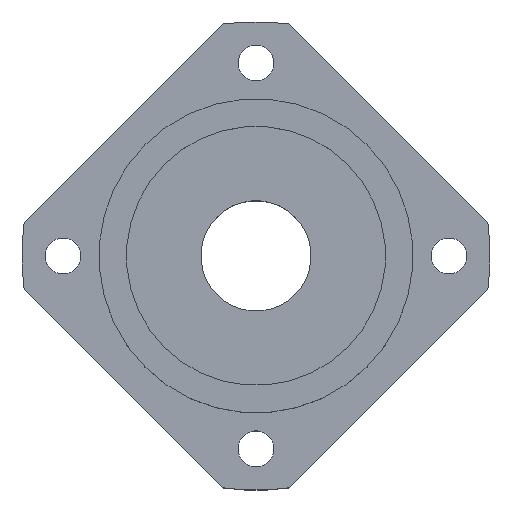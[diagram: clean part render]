
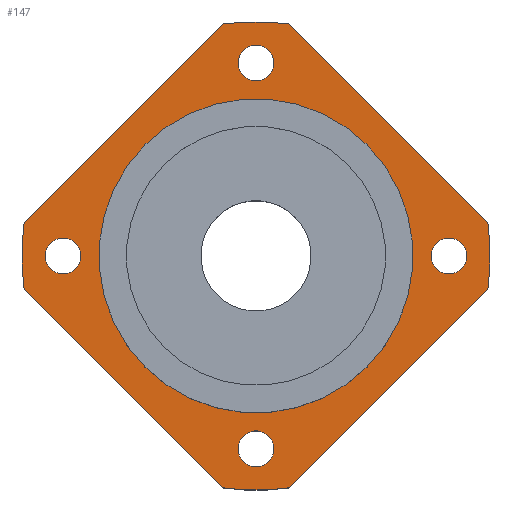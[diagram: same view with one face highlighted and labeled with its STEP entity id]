
A CAD part, top view. The second image highlights one B-rep face of the part: STEP entity #147.
In plain terms, the highlighted planar face has unit normal (0, 0, 1).
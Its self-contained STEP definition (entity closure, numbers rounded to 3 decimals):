
#83=LINE('',#720,#99);
#88=LINE('',#734,#104);
#92=LINE('',#746,#108);
#96=LINE('',#758,#112);
#99=VECTOR('',#577,1.);
#104=VECTOR('',#590,1.);
#108=VECTOR('',#602,1.);
#112=VECTOR('',#614,1.);
#123=PLANE('',#545);
#147=ADVANCED_FACE('',(#201,#202,#203,#204,#205,#206),#123,.T.);
#201=FACE_BOUND('',#259,.T.);
#202=FACE_BOUND('',#260,.T.);
#203=FACE_BOUND('',#261,.T.);
#204=FACE_BOUND('',#262,.T.);
#205=FACE_BOUND('',#263,.T.);
#206=FACE_BOUND('',#264,.T.);
#259=EDGE_LOOP('',(#348,#349,#350,#351,#352,#353,#354,#355));
#260=EDGE_LOOP('',(#356));
#261=EDGE_LOOP('',(#357));
#262=EDGE_LOOP('',(#358));
#263=EDGE_LOOP('',(#359));
#264=EDGE_LOOP('',(#360));
#348=ORIENTED_EDGE('',*,*,#421,.T.);
#349=ORIENTED_EDGE('',*,*,#425,.T.);
#350=ORIENTED_EDGE('',*,*,#428,.T.);
#351=ORIENTED_EDGE('',*,*,#430,.T.);
#352=ORIENTED_EDGE('',*,*,#434,.T.);
#353=ORIENTED_EDGE('',*,*,#437,.T.);
#354=ORIENTED_EDGE('',*,*,#440,.T.);
#355=ORIENTED_EDGE('',*,*,#441,.T.);
#356=ORIENTED_EDGE('',*,*,#415,.F.);
#357=ORIENTED_EDGE('',*,*,#452,.F.);
#358=ORIENTED_EDGE('',*,*,#456,.F.);
#359=ORIENTED_EDGE('',*,*,#457,.F.);
#360=ORIENTED_EDGE('',*,*,#458,.F.);
#375=VERTEX_POINT('',#705);
#381=VERTEX_POINT('',#719);
#382=VERTEX_POINT('',#721);
#384=VERTEX_POINT('',#727);
#386=VERTEX_POINT('',#733);
#388=VERTEX_POINT('',#738);
#390=VERTEX_POINT('',#745);
#392=VERTEX_POINT('',#751);
#394=VERTEX_POINT('',#757);
#404=VERTEX_POINT('',#788);
#408=VERTEX_POINT('',#800);
#409=VERTEX_POINT('',#802);
#410=VERTEX_POINT('',#804);
#415=EDGE_CURVE('GENERATED CIRCLE',#375,#375,#463,.T.);
#421=EDGE_CURVE('LINE',#382,#381,#83,.T.);
#425=EDGE_CURVE('GENERATED CIRCLE',#381,#384,#468,.T.);
#428=EDGE_CURVE('LINE',#384,#386,#88,.T.);
#430=EDGE_CURVE('GENERATED CIRCLE',#386,#388,#469,.T.);
#434=EDGE_CURVE('LINE',#388,#390,#92,.T.);
#437=EDGE_CURVE('GENERATED CIRCLE',#390,#392,#472,.T.);
#440=EDGE_CURVE('LINE',#392,#394,#96,.T.);
#441=EDGE_CURVE('GENERATED CIRCLE',#394,#382,#473,.T.);
#452=EDGE_CURVE('GENERATED CIRCLE',#404,#404,#484,.T.);
#456=EDGE_CURVE('GENERATED CIRCLE',#408,#408,#488,.T.);
#457=EDGE_CURVE('GENERATED CIRCLE',#409,#409,#489,.T.);
#458=EDGE_CURVE('GENERATED CIRCLE',#410,#410,#490,.T.);
#463=CIRCLE('',#496,3.25);
#468=CIRCLE('',#505,42.5);
#469=CIRCLE('',#508,42.5);
#472=CIRCLE('',#513,42.5);
#473=CIRCLE('',#516,42.5);
#484=CIRCLE('',#534,28.5);
#488=CIRCLE('',#542,3.25);
#489=CIRCLE('',#543,3.25);
#490=CIRCLE('',#544,3.25);
#496=AXIS2_PLACEMENT_3D('',#704,#561,#562);
#505=AXIS2_PLACEMENT_3D('',#728,#584,#585);
#508=AXIS2_PLACEMENT_3D('',#739,#594,#595);
#513=AXIS2_PLACEMENT_3D('',#752,#608,#609);
#516=AXIS2_PLACEMENT_3D('',#760,#617,#618);
#534=AXIS2_PLACEMENT_3D('',#787,#653,#654);
#542=AXIS2_PLACEMENT_3D('',#799,#669,#670);
#543=AXIS2_PLACEMENT_3D('',#801,#671,#672);
#544=AXIS2_PLACEMENT_3D('',#803,#673,#674);
#545=AXIS2_PLACEMENT_3D('',#805,#675,#676);
#561=DIRECTION('',(0.,0.,1.));
#562=DIRECTION('',(-1.,0.,0.));
#577=DIRECTION('',(0.,1.,0.));
#584=DIRECTION('',(0.,0.,1.));
#585=DIRECTION('',(1.,0.,0.));
#590=DIRECTION('',(-1.,0.,0.));
#594=DIRECTION('',(0.,0.,1.));
#595=DIRECTION('',(1.,0.,0.));
#602=DIRECTION('',(0.,-1.,0.));
#608=DIRECTION('',(0.,0.,1.));
#609=DIRECTION('',(1.,0.,0.));
#614=DIRECTION('',(1.,0.,0.));
#617=DIRECTION('',(0.,0.,1.));
#618=DIRECTION('',(1.,0.,0.));
#653=DIRECTION('',(0.,0.,1.));
#654=DIRECTION('',(1.,0.,0.));
#669=DIRECTION('',(0.,0.,1.));
#670=DIRECTION('',(1.,0.,0.));
#671=DIRECTION('',(0.,0.,1.));
#672=DIRECTION('',(1.,0.,0.));
#673=DIRECTION('',(0.,0.,1.));
#674=DIRECTION('',(1.,0.,0.));
#675=DIRECTION('',(0.,0.,1.));
#676=DIRECTION('',(-1.,0.,0.));
#704=CARTESIAN_POINT('',(24.749,-24.749,11.));
#705=CARTESIAN_POINT('',(21.499,-24.749,11.));
#719=CARTESIAN_POINT('',(34.,25.5,11.));
#720=CARTESIAN_POINT('',(34.,0.,11.));
#721=CARTESIAN_POINT('',(34.,-25.5,11.));
#727=CARTESIAN_POINT('',(25.5,34.,11.));
#728=CARTESIAN_POINT('',(0.,0.,11.));
#733=CARTESIAN_POINT('',(-25.5,34.,11.));
#734=CARTESIAN_POINT('',(0.,34.,11.));
#738=CARTESIAN_POINT('',(-34.,25.5,11.));
#739=CARTESIAN_POINT('',(0.,0.,11.));
#745=CARTESIAN_POINT('',(-34.,-25.5,11.));
#746=CARTESIAN_POINT('',(-34.,0.,11.));
#751=CARTESIAN_POINT('',(-25.5,-34.,11.));
#752=CARTESIAN_POINT('',(0.,0.,11.));
#757=CARTESIAN_POINT('',(25.5,-34.,11.));
#758=CARTESIAN_POINT('',(0.,-34.,11.));
#760=CARTESIAN_POINT('',(0.,0.,11.));
#787=CARTESIAN_POINT('',(0.,0.,11.));
#788=CARTESIAN_POINT('',(28.5,0.,11.));
#799=CARTESIAN_POINT('',(24.749,24.749,11.));
#800=CARTESIAN_POINT('',(27.999,24.749,11.));
#801=CARTESIAN_POINT('',(-24.749,24.749,11.));
#802=CARTESIAN_POINT('',(-21.499,24.749,11.));
#803=CARTESIAN_POINT('',(-24.749,-24.749,11.));
#804=CARTESIAN_POINT('',(-21.499,-24.749,11.));
#805=CARTESIAN_POINT('',(0.,42.5,11.));
